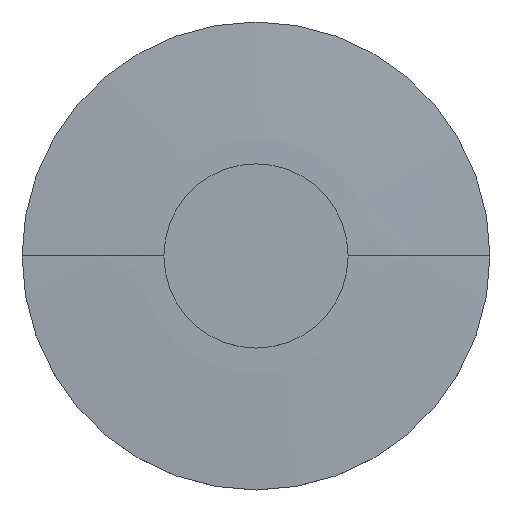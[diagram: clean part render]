
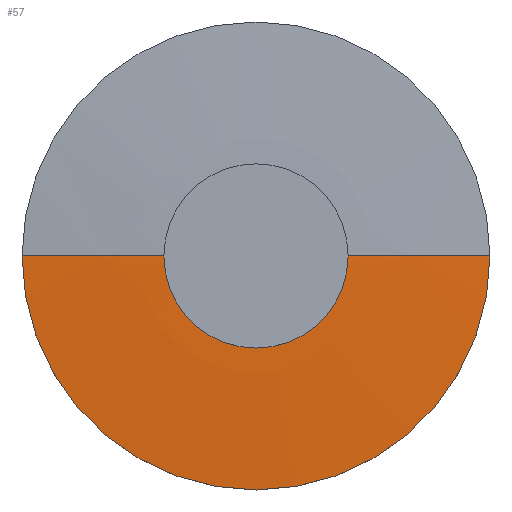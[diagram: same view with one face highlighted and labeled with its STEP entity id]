
A CAD part, top view. The second image highlights one B-rep face of the part: STEP entity #57.
In plain terms, the highlighted spherical face has radius 385.505 mm.
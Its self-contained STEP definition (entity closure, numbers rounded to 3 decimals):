
#57=ADVANCED_FACE('',(#71),#72,.T.);
#71=FACE_OUTER_BOUND('',#91,.T.);
#72=SPHERICAL_SURFACE('',#92,385.505);
#91=EDGE_LOOP('',(#124,#125,#126));
#92=AXIS2_PLACEMENT_3D('',#127,#128,#129);
#124=ORIENTED_EDGE('',*,*,#173,.T.);
#125=ORIENTED_EDGE('',*,*,#174,.T.);
#126=ORIENTED_EDGE('',*,*,#175,.T.);
#127=CARTESIAN_POINT('',(0.0,0.0,-377.505));
#128=DIRECTION('',(0.0,0.0,1.0));
#129=DIRECTION('',(1.0,0.0,0.0));
#173=EDGE_CURVE('',#189,#194,#195,.T.);
#174=EDGE_CURVE('',#194,#191,#196,.T.);
#175=EDGE_CURVE('',#191,#189,#197,.T.);
#189=VERTEX_POINT('',#215);
#191=VERTEX_POINT('',#218);
#194=VERTEX_POINT('',#222);
#195=CIRCLE('',#223,385.505);
#196=CIRCLE('',#224,385.505);
#197=CIRCLE('',#225,25.4);
#215=CARTESIAN_POINT('',(25.4,0.,7.162));
#218=CARTESIAN_POINT('',(-25.4,0.,7.162));
#222=CARTESIAN_POINT('',(0.0,0.0,8.));
#223=AXIS2_PLACEMENT_3D('',#253,#254,#255);
#224=AXIS2_PLACEMENT_3D('',#256,#257,#258);
#225=AXIS2_PLACEMENT_3D('',#259,#260,#261);
#253=CARTESIAN_POINT('',(0.0,0.0,-377.505));
#254=DIRECTION('',(0.,-1.0,0.0));
#255=DIRECTION('',(0.0,0.0,1.0));
#256=CARTESIAN_POINT('',(0.0,0.0,-377.505));
#257=DIRECTION('',(0.,-1.0,0.0));
#258=DIRECTION('',(0.0,0.0,1.0));
#259=CARTESIAN_POINT('',(0.0,0.0,7.162));
#260=DIRECTION('',(0.0,0.0,1.0));
#261=DIRECTION('',(1.0,0.0,0.0));
